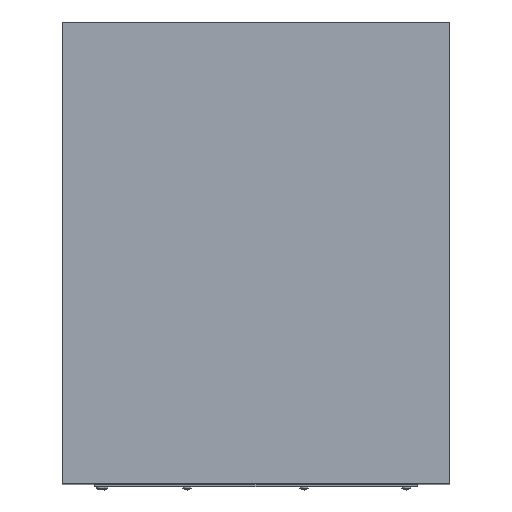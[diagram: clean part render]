
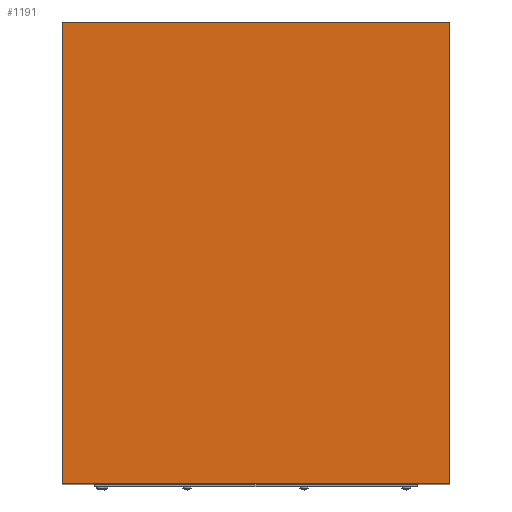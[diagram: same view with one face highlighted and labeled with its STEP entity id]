
A CAD part, top view. The second image highlights one B-rep face of the part: STEP entity #1191.
In plain terms, the highlighted planar face has unit normal (0, 0, 1) as drawn and (0, -1, 0) by its records, which use the part's own axes.
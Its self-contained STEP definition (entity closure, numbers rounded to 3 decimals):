
#1112=DIRECTION('',(1.,0.,0.));
#1113=VECTOR('',#1112,365.);
#1114=CARTESIAN_POINT('',(-182.5,0.,153.));
#1115=LINE('',#1114,#1113);
#1116=DIRECTION('',(0.,0.,-1.));
#1117=VECTOR('',#1116,306.);
#1118=CARTESIAN_POINT('',(182.5,0.,153.));
#1119=LINE('',#1118,#1117);
#1120=DIRECTION('',(-1.,0.,0.));
#1121=VECTOR('',#1120,365.);
#1122=CARTESIAN_POINT('',(182.5,0.,-153.));
#1123=LINE('',#1122,#1121);
#1124=DIRECTION('',(0.,0.,1.));
#1125=VECTOR('',#1124,306.);
#1126=CARTESIAN_POINT('',(-182.5,0.,-153.));
#1127=LINE('',#1126,#1125);
#1160=CARTESIAN_POINT('',(-182.5,0.,153.));
#1161=CARTESIAN_POINT('',(182.5,0.,153.));
#1162=VERTEX_POINT('',#1160);
#1163=VERTEX_POINT('',#1161);
#1164=CARTESIAN_POINT('',(182.5,0.,-153.));
#1165=VERTEX_POINT('',#1164);
#1166=CARTESIAN_POINT('',(-182.5,0.,-153.));
#1167=VERTEX_POINT('',#1166);
#1176=CARTESIAN_POINT('',(0.,0.,0.));
#1177=DIRECTION('',(0.,1.,0.));
#1178=DIRECTION('',(1.,0.,0.));
#1179=AXIS2_PLACEMENT_3D('',#1176,#1177,#1178);
#1180=PLANE('',#1179);
#1182=ORIENTED_EDGE('',*,*,#1181,.T.);
#1184=ORIENTED_EDGE('',*,*,#1183,.T.);
#1186=ORIENTED_EDGE('',*,*,#1185,.T.);
#1188=ORIENTED_EDGE('',*,*,#1187,.T.);
#1189=EDGE_LOOP('',(#1182,#1184,#1186,#1188));
#1190=FACE_OUTER_BOUND('',#1189,.F.);
#1191=ADVANCED_FACE('',(#1190),#1180,.F.);
#1181=EDGE_CURVE('',#1162,#1163,#1115,.T.);
#1183=EDGE_CURVE('',#1163,#1165,#1119,.T.);
#1185=EDGE_CURVE('',#1165,#1167,#1123,.T.);
#1187=EDGE_CURVE('',#1167,#1162,#1127,.T.);
